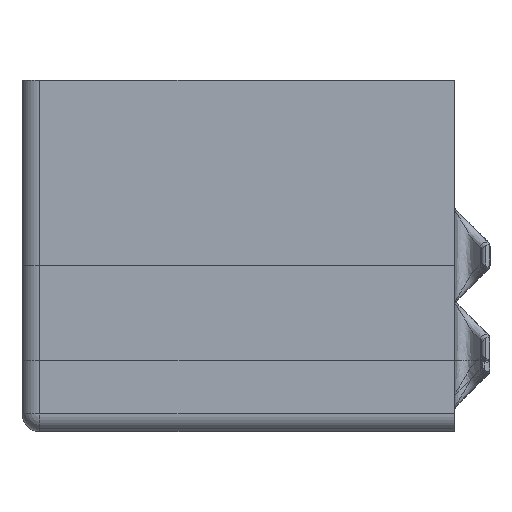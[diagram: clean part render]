
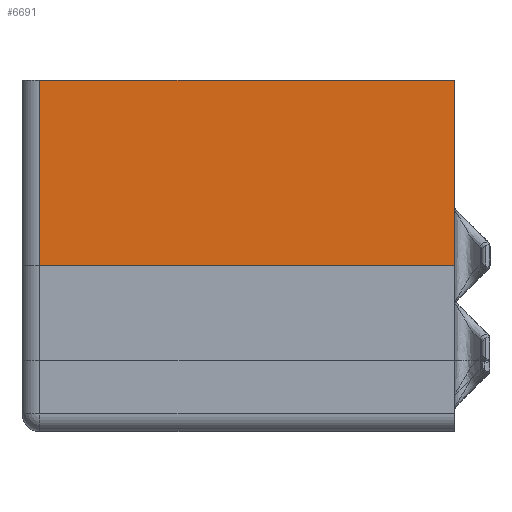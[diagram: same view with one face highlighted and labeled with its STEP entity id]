
A CAD part, left-side view. The second image highlights one B-rep face of the part: STEP entity #6691.
In plain terms, the highlighted planar face has unit normal (-1, 0, 0).
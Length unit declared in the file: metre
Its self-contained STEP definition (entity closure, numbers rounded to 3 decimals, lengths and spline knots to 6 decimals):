
#652=PLANE('',#7300);
#891=LINE('',#13018,#1286);
#892=LINE('',#13021,#1287);
#893=LINE('',#13023,#1288);
#894=LINE('',#13025,#1289);
#1286=VECTOR('',#8325,1.);
#1287=VECTOR('',#8326,1.);
#1288=VECTOR('',#8327,1.);
#1289=VECTOR('',#8328,1.);
#2648=ORIENTED_EDGE('',*,*,#4231,.F.);
#2649=ORIENTED_EDGE('',*,*,#4232,.T.);
#2650=ORIENTED_EDGE('',*,*,#4233,.T.);
#2651=ORIENTED_EDGE('',*,*,#4234,.F.);
#4231=EDGE_CURVE('',#5083,#5084,#891,.T.);
#4232=EDGE_CURVE('',#5083,#5085,#892,.T.);
#4233=EDGE_CURVE('',#5085,#5086,#893,.T.);
#4234=EDGE_CURVE('',#5084,#5086,#894,.T.);
#5083=VERTEX_POINT('',#13019);
#5084=VERTEX_POINT('',#13020);
#5085=VERTEX_POINT('',#13022);
#5086=VERTEX_POINT('',#13024);
#5823=EDGE_LOOP('',(#2648,#2649,#2650,#2651));
#6248=FACE_BOUND('',#5823,.T.);
#6691=ADVANCED_FACE('',(#6248),#652,.F.);
#7300=AXIS2_PLACEMENT_3D('',#13017,#8323,#8324);
#8323=DIRECTION('',(1.,0.,0.));
#8324=DIRECTION('',(0.,0.,-1.));
#8325=DIRECTION('',(0.,-1.,0.));
#8326=DIRECTION('',(0.,0.,-1.));
#8327=DIRECTION('',(0.,-1.,0.));
#8328=DIRECTION('',(0.,0.,-1.));
#13017=CARTESIAN_POINT('',(0.320779,0.,0.059333));
#13018=CARTESIAN_POINT('',(0.320779,0.,0.059333));
#13019=CARTESIAN_POINT('',(0.320779,0.0335,0.059333));
#13020=CARTESIAN_POINT('',(0.320779,-0.0365,0.059333));
#13021=CARTESIAN_POINT('',(0.320779,0.0335,0.));
#13022=CARTESIAN_POINT('',(0.320779,0.0335,0.003));
#13023=CARTESIAN_POINT('',(0.320779,0.,0.003));
#13024=CARTESIAN_POINT('',(0.320779,-0.0365,0.003));
#13025=CARTESIAN_POINT('',(0.320779,-0.0365,0.059333));
